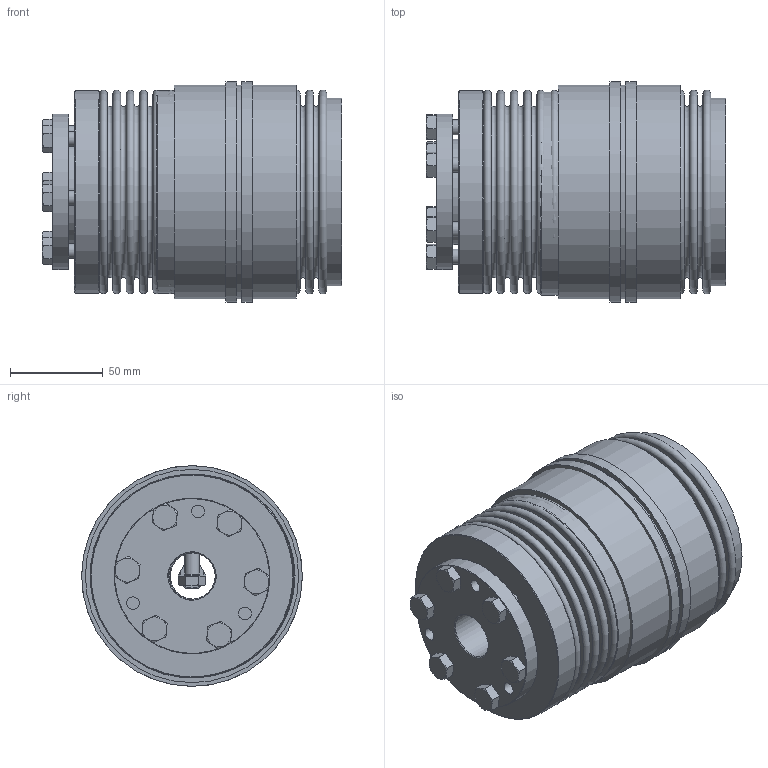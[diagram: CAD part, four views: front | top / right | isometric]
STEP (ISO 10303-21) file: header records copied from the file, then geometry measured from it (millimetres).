
FILE_DESCRIPTION( ( 'Unknown' ), '1' );
FILE_NAME( 'C:/Dokumente und Einstellungen/SKarpstein/Desktop/Korrigierte 3D Modelle/KBK-B-II/KBK-BII-300-145.stp', 'Unknown', ( 'Unknown' ), ( 'Unknown' ), 'XStep 1.0', 'Unknown', ' ' );
FILE_SCHEMA( ( 'automotive_design' ) );
Length unit declared in the file: millimetre
Products named in the file (12): Assem1; Assem2; Hex Screw GradeC_ISO_ISO 4018 - M8 x 30-NN_2; BA300_Standard_2; KB300_Standard_2; Stellring 300_0; Druckring 300_0; Kupplung L-I-300 Grundkörper_0; Konusbuchse 300_0; din_en_24017_m8x30_0; BL300_Standard_0; Flansch BI300
Bounding box: 161.37 x 119 x 119 mm (x, y, z)
Volume: 1641211.6 mm3; surface area: 590157.8 mm2
Topology: 38 solids, 38 shells, 800 faces, 1676 edges, 1064 vertices
Faces by surface type: plane 344, cone 225, cylinder 173, torus 58
Full cylindrical faces by diameter (mm): 3.242 x6, 5.2 x6, 6.647 x18, 6.8 x9, 8 x38, 8.5 x30, 11.63 x7, 25 x7, 52 x4, 55 x4, 57 x3, 76 x6, 83.5 x2, 84 x5, 88 x5, 90 x2, 98 x2, 98.5 x2, 99.8 x4, 101 x4, 109.5 x3, 115 x4, 119 x2
Entity records: 6181 total; most frequent: CARTESIAN_POINT 1322, DIRECTION 1044, ORIENTED_EDGE 660, AXIS2_PLACEMENT_3D 498, EDGE_LOOP 466, EDGE_CURVE 330, FACE_OUTER_BOUND 324, VERTEX_POINT 282
